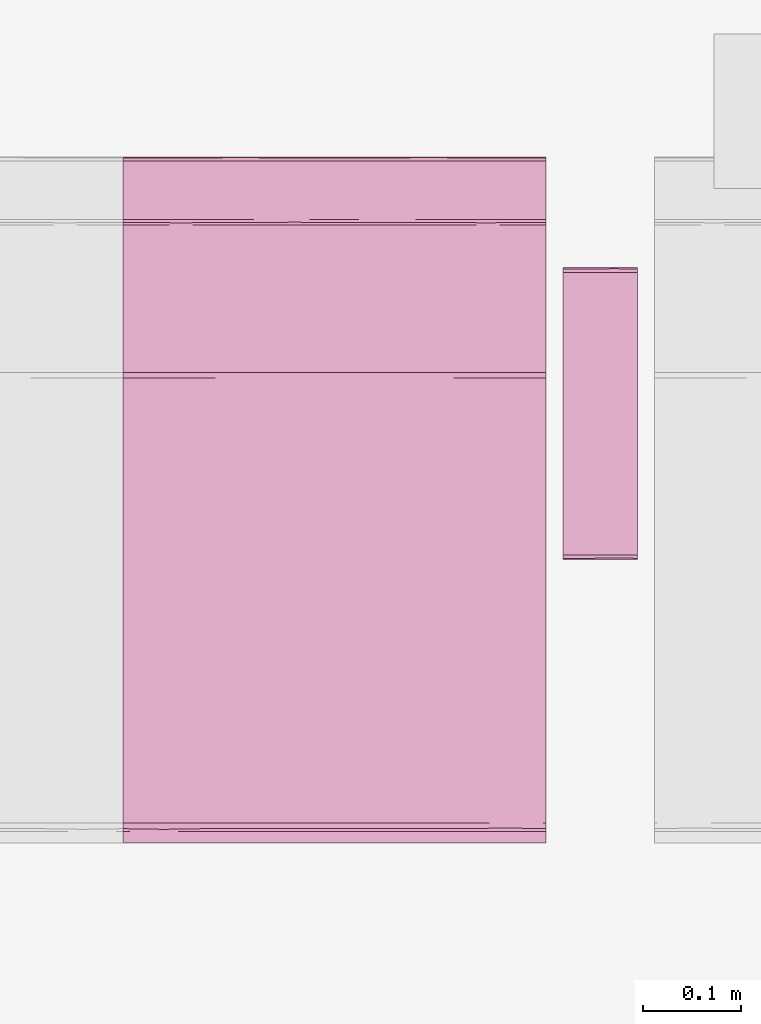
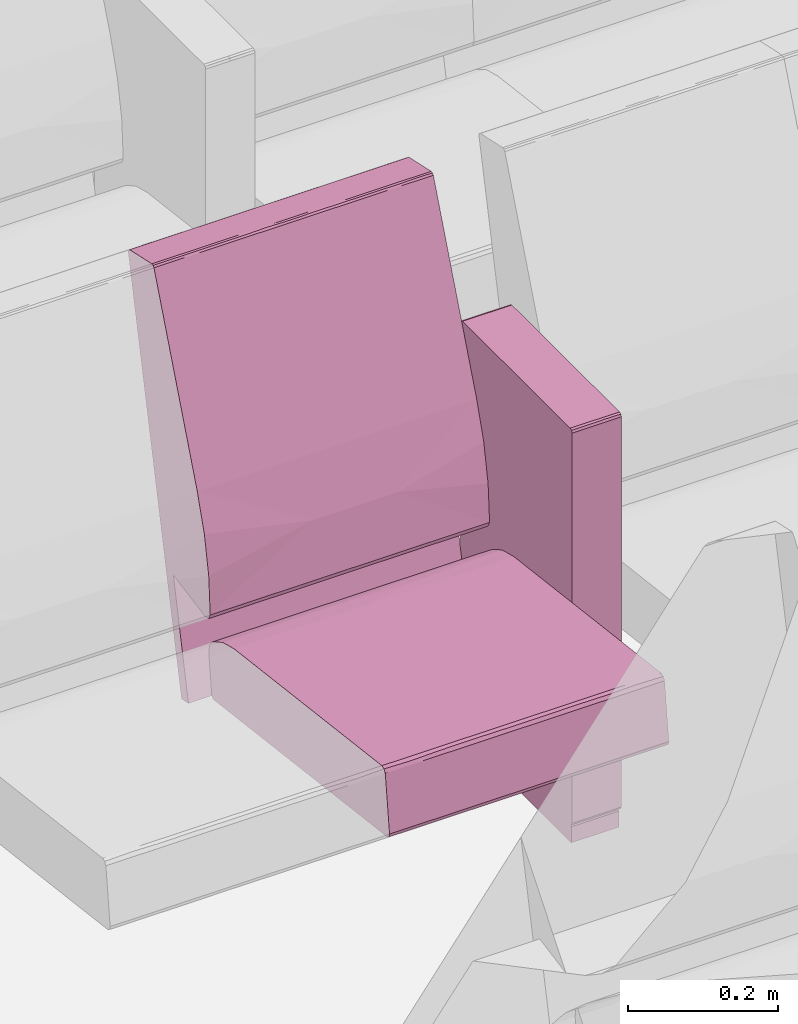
# One storey, part 116 of 155: 1 furnishing.
"""IFC2X3 building model written with IfcOpenShell, lengths in metres."""

from ifc_helpers import new_model, entity, si_unit, converted_unit, derived_unit, direction, frame, origin, place, context, subcontext, project, spatial, faceted_brep, source, transform, mapped, material, material_list, type_object, type_shapes, element, save


model = new_model("IFC2X3")

# Units and contexts
model_context = context("Model", 3, precision=1e-05, world=origin(), true_north=direction((6.12303176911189e-17, 1.0)))
body_context = subcontext(model_context, "Body", "Model", "MODEL_VIEW")
ifc_project = project(units=[si_unit("LENGTHUNIT", "METRE"), si_unit("AREAUNIT", "SQUARE_METRE"), si_unit("VOLUMEUNIT", "CUBIC_METRE"), converted_unit("PLANEANGLEUNIT", "DEGREE", entity("IfcRatioMeasure", 0.0174532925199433), si_unit("PLANEANGLEUNIT", "RADIAN"), dimensions=[0, 0, 0, 0, 0, 0, 0]), si_unit("MASSUNIT", "GRAM", prefix="KILO"), derived_unit("MASSDENSITYUNIT", [(si_unit("MASSUNIT", "GRAM", prefix="KILO"), 1), (si_unit("LENGTHUNIT", "METRE"), -3)]), si_unit("TIMEUNIT", "SECOND"), si_unit("FREQUENCYUNIT", "HERTZ"), si_unit("THERMODYNAMICTEMPERATUREUNIT", "DEGREE_CELSIUS"), derived_unit("THERMALTRANSMITTANCEUNIT", [(si_unit("MASSUNIT", "GRAM", prefix="KILO"), 1), (si_unit("THERMODYNAMICTEMPERATUREUNIT", "KELVIN"), -1), (si_unit("TIMEUNIT", "SECOND"), -3)]), derived_unit("VOLUMETRICFLOWRATEUNIT", [(si_unit("LENGTHUNIT", "METRE"), 3), (si_unit("TIMEUNIT", "SECOND"), -1)]), si_unit("ELECTRICCURRENTUNIT", "AMPERE"), si_unit("ELECTRICVOLTAGEUNIT", "VOLT"), si_unit("POWERUNIT", "WATT"), si_unit("FORCEUNIT", "NEWTON", prefix="KILO"), si_unit("ILLUMINANCEUNIT", "LUX"), si_unit("LUMINOUSFLUXUNIT", "LUMEN"), si_unit("LUMINOUSINTENSITYUNIT", "CANDELA"), derived_unit("USERDEFINED", [(si_unit("MASSUNIT", "GRAM", prefix="KILO"), -1), (si_unit("LENGTHUNIT", "METRE"), -2), (si_unit("TIMEUNIT", "SECOND"), 3), (si_unit("LUMINOUSFLUXUNIT", "LUMEN"), 1)]), derived_unit("LINEARVELOCITYUNIT", [(si_unit("LENGTHUNIT", "METRE"), 1), (si_unit("TIMEUNIT", "SECOND"), -1)]), si_unit("PRESSUREUNIT", "PASCAL"), derived_unit("USERDEFINED", [(si_unit("LENGTHUNIT", "METRE"), -2), (si_unit("MASSUNIT", "GRAM", prefix="KILO"), 1), (si_unit("TIMEUNIT", "SECOND"), -2)])], contexts=[model_context])

# Site, building, storey, space
site_placement = place(None, frame((26.9889013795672, -17.5624287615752, 0.0)))
site = spatial("IfcSite", under=ifc_project, at=site_placement, Name="Default", CompositionType="ELEMENT")
building_placement = place(site_placement, origin())
building = spatial("IfcBuilding", under=site, at=building_placement, Name="C. C. L. Monsenhor Antônio Sampaio", CompositionType="ELEMENT")
storey_placement = place(building_placement, frame((0.0, 0.0, 1.19999999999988)))
storey = spatial("IfcBuildingStorey", under=building, at=storey_placement, Name="Nível 1.2", CompositionType="ELEMENT", Elevation=1.19999999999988)
space_placement = place(storey_placement, origin())
space = spatial("IfcSpace", under=storey, at=space_placement, Name="94", CompositionType="ELEMENT", InteriorOrExteriorSpace="INTERNAL")

# Furnishing
ifc_material_1 = material(Name="V9 - V9 - Ecopelle_672_658")
ifc_material_2 = material(Name="V9 - V9 - RAL_9006_Grigio")
ifc_material_list_1 = material_list([ifc_material_1, ifc_material_2])
ifc_material_list_2 = material_list([ifc_material_1, ifc_material_2])
furniture_type = type_object("IfcFurnitureType", Name="Cadeira auditório", material=ifc_material_list_2)
shared_shape = source(origin(), body_context, "Body", "Brep", [
    faceted_brep([(0.405536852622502, -0.1075, 0.339809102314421), (0.410560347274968, -0.131924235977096, 0.34246450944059), (0.405536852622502, -0.156348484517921, 0.339809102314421), (0.41079981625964, -0.0179166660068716, 0.342749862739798), (0.410597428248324, -0.084060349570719, 0.342506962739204), (0.405536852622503, -0.0537499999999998, 0.339809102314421), (0.410248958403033, -0.173608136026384, 0.342130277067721), (0.405536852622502, -0.215, 0.339809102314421), (0.412515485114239, -0.143333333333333, 0.348529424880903), (0.412515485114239, -0.185674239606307, 0.348529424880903), (0.405536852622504, 0.1075, 0.33980910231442), (0.405536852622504, 0.156348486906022, 0.33980910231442), (0.410560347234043, 0.131924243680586, 0.342464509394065), (0.405536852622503, 0.0, 0.33980910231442), (0.411170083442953, 0.0341365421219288, 0.343251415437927), (0.41251548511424, 0.0, 0.348529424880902), (0.412515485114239, -0.0358333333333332, 0.348529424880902), (0.412515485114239, -0.0716666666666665, 0.348529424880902), (0.41251548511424, 0.143333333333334, 0.348529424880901), (0.41059742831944, 0.0840603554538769, 0.342506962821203), (0.405536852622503, 0.0537500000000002, 0.33980910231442), (0.410248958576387, 0.173608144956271, 0.342130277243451), (0.410799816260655, 0.215, 0.342749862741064), (0.412515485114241, 0.185674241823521, 0.348529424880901), (0.412515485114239, -0.215, 0.348529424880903), (0.410799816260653, -0.215, 0.342749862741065), (0.412515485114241, 0.215, 0.348529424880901), (0.41251548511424, 0.0716666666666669, 0.348529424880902), (0.405536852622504, 0.215, 0.33980910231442), (-0.0557900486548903, -0.215, 0.28268145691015), (-0.0557900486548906, -0.1881249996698, 0.282681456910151), (-0.0557900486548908, -0.161250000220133, 0.282681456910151), (-0.055790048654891, -0.134374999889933, 0.282681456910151), (-0.0557900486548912, -0.107499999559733, 0.282681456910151), (-0.0557900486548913, -0.0806250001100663, 0.282681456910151), (-0.0557900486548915, -0.0537499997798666, 0.282681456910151), (-0.0557900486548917, -0.0268749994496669, 0.282681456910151), (-0.0557900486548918, 0.0, 0.28268145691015), (-0.0557900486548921, 0.0268750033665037, 0.282681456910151), (-0.0557900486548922, 0.0537499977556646, 0.282681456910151), (-0.0557900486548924, 0.0806249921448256, 0.282681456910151), (-0.0557900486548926, 0.107499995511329, 0.282681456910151), (-0.0557900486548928, 0.138065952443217, 0.282681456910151), (-0.055790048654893, 0.168631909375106, 0.282681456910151), (-0.0557900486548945, 0.215, 0.28268145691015), (-0.0594787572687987, -0.0179017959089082, 0.283700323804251), (-0.0613666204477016, 0.0, 0.287029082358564), (-0.0594787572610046, 0.0152829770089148, 0.283700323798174), (-0.0594787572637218, -0.215, 0.283700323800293), (-0.0613666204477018, -0.215, 0.287029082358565), (-0.0613666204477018, -0.191815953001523, 0.287029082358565), (-0.0613666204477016, -0.030565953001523, 0.287029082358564), (-0.0593340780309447, -0.0671874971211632, 0.283591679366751), (-0.0593337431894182, 0.184174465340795, 0.283591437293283), (-0.0594787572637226, 0.215, 0.283700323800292), (-0.0593023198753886, 0.0940625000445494, 0.283568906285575), (-0.0613666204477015, 0.0611319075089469, 0.287029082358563), (-0.0613666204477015, 0.0916978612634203, 0.287029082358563), (-0.0613666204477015, 0.122263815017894, 0.287029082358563), (-0.0597338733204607, -0.147039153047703, 0.283913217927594), (-0.0613666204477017, -0.122263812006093, 0.287029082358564), (-0.059382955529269, -0.118123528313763, 0.28362747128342), (-0.0592501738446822, -0.180223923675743, 0.283532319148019), (-0.0613666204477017, -0.168631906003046, 0.287029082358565), (-0.0588783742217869, -0.0926899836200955, 0.283298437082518), (-0.0613666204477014, 0.168631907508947, 0.287029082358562), (-0.0613666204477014, 0.215, 0.287029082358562), (-0.0592576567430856, 0.123736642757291, 0.283537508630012), (-0.0594787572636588, 0.153348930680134, 0.283700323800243), (-0.0613666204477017, -0.0916978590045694, 0.287029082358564), (-0.0613666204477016, 0.0305659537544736, 0.287029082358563), (-0.059645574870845, 0.045848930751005, 0.283836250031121), (-0.0613666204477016, -0.0611319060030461, 0.287029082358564), (-0.0693403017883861, 0.143333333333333, 0.351419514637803), (-0.069340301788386, 0.215, 0.351419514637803), (-0.0693403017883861, -0.215, 0.351419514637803), (-0.0693403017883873, -0.143333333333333, 0.351419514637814), (-0.069340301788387, -0.0716666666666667, 0.351419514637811), (-0.0693403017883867, 0.0, 0.351419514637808), (-0.0693403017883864, 0.0716666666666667, 0.351419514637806), (-0.0653387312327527, -0.0126787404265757, 0.368680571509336), (-0.0645543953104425, -0.112272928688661, 0.369803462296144), (-0.0597085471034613, 0.0, 0.37476954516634), (-0.0655136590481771, 0.104400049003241, 0.368411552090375), (-0.0681665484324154, 0.0888707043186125, 0.36292533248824), (-0.0694879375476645, -0.0590582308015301, 0.356377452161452), (-0.0695056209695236, 0.125492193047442, 0.356093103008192), (-0.0597085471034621, 0.110316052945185, 0.374769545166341), (-0.0676206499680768, -0.215, 0.364371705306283), (-0.0672851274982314, -0.108066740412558, 0.365148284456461), (-0.0690003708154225, -0.132942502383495, 0.359900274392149), (-0.068624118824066, -0.215, 0.356813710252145), (-0.0686241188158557, 0.214999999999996, 0.356813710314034), (-0.0694502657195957, 0.0358333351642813, 0.356863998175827), (-0.0686999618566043, -0.035833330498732, 0.36116674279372), (-0.067620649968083, 0.214999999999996, 0.364371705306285), (-0.063664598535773, 0.214999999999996, 0.369570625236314), (-0.0597085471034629, 0.214999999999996, 0.374769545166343), (-0.0597085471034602, -0.110316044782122, 0.374769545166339), (-0.0636645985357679, -0.215, 0.36957062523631), (-0.0597085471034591, -0.215, 0.374769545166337), (-0.0018793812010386, -0.215, 0.398686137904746), (-0.0324117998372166, -0.0436847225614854, 0.39063968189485), (-0.0324117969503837, -0.215, 0.390639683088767), (-0.041847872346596, 0.0856576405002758, 0.386239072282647), (-0.00187938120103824, 0.102488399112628, 0.398686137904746), (-0.00187938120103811, 0.215, 0.398686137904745), (-0.0324117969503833, 0.215, 0.390639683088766), (-0.0219042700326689, 0.0570631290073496, 0.394412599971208), (-0.00187938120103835, 0.0, 0.398686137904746), (0.392202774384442, -0.215, 0.447486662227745), (0.392202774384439, -0.156349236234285, 0.447486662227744), (0.392202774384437, -0.107499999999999, 0.447486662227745), (0.392202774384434, -0.0537499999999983, 0.447486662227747), (0.392202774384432, 0.0, 0.447486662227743), (0.392202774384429, 0.0537500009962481, 0.44748666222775), (0.392202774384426, 0.107500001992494, 0.447486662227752), (0.392202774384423, 0.156349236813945, 0.447486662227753), (0.392202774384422, 0.215, 0.447486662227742), (0.397860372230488, 0.0827732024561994, 0.446039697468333), (0.401125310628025, 0.0976984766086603, 0.440530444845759), (0.398104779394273, 0.131924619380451, 0.445856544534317), (0.397373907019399, 0.173462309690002, 0.446363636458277), (0.401125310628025, 0.156349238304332, 0.440530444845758), (0.401125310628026, 0.215000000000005, 0.440530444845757), (0.398104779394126, 0.215000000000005, 0.445856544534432), (0.397860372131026, -0.0827731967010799, 0.446039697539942), (0.398104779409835, -0.131924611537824, 0.445856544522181), (0.398104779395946, -0.0268749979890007, 0.445856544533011), (0.398104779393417, 0.0237489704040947, 0.445856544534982), (0.401125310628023, -0.0488492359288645, 0.440530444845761), (0.401125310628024, 0.0488492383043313, 0.44053044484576), (0.398774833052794, -0.173462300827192, 0.445271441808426), (0.401125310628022, -0.0976984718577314, 0.440530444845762), (0.39810477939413, -0.215, 0.445856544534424), (0.401125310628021, -0.215, 0.440530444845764), (0.401125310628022, -0.156349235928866, 0.440530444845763), (0.401125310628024, 0.0, 0.44053044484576)], [[[0, 1, 2]], [[3, 4, 5]], [[2, 6, 7]], [[8, 9, 6]], [[10, 11, 12]], [[13, 3, 5]], [[3, 14, 15]], [[1, 4, 8]], [[6, 1, 8]], [[4, 3, 16]], [[16, 17, 8, 4]], [[12, 18, 19]], [[4, 1, 0]], [[20, 14, 13]], [[21, 22, 23]], [[15, 16, 3]], [[9, 24, 25]], [[26, 23, 22]], [[7, 6, 25]], [[12, 11, 21]], [[19, 14, 20]], [[4, 0, 5]], [[14, 27, 15]], [[13, 14, 3]], [[19, 18, 27]], [[19, 10, 12]], [[18, 21, 23]], [[10, 19, 20]], [[19, 27, 14]], [[2, 1, 6]], [[21, 11, 28]], [[25, 6, 9]], [[18, 12, 21]], [[22, 21, 28]], [[28, 11, 10, 20, 13, 5, 0, 2, 7, 29, 30, 31, 32, 33, 34, 35, 36, 37, 38, 39, 40, 41, 42, 43, 44]], [[45, 46, 47]], [[48, 49, 50]], [[51, 45, 52]], [[53, 54, 44]], [[55, 56, 57, 58]], [[59, 60, 61]], [[62, 63, 59]], [[34, 64, 52]], [[53, 65, 66]], [[41, 67, 42]], [[37, 36, 35, 45, 47, 38]], [[43, 42, 68]], [[29, 48, 30]], [[59, 31, 62]], [[62, 48, 50]], [[61, 69, 64]], [[65, 53, 68]], [[50, 63, 62]], [[62, 30, 48]], [[55, 58, 67]], [[32, 31, 59]], [[46, 70, 47]], [[65, 68, 58]], [[55, 40, 71]], [[70, 56, 71]], [[61, 33, 32]], [[59, 63, 60]], [[39, 38, 71, 40]], [[47, 71, 38]], [[51, 46, 45]], [[70, 71, 47]], [[71, 56, 55]], [[40, 55, 41]], [[67, 68, 42]], [[43, 68, 53]], [[43, 53, 44]], [[66, 54, 53]], [[68, 67, 58]], [[55, 67, 41]], [[72, 51, 52, 69]], [[62, 31, 30]], [[59, 61, 32]], [[35, 52, 45]], [[64, 34, 33]], [[34, 52, 35]], [[61, 60, 69]], [[52, 64, 69]], [[61, 64, 33]], [[73, 74, 66, 65, 58, 57, 56, 70, 46, 51, 72, 69, 60, 63, 50, 49, 75, 76, 77, 78, 79]], [[80, 81, 82]], [[83, 84, 80]], [[85, 78, 77, 76]], [[73, 79, 86]], [[80, 82, 83]], [[87, 83, 82]], [[88, 89, 90]], [[76, 75, 91]], [[92, 74, 73]], [[91, 90, 85]], [[80, 89, 81]], [[84, 93, 94]], [[84, 86, 93]], [[93, 78, 85]], [[73, 86, 92]], [[94, 93, 85]], [[95, 92, 84]], [[78, 93, 79]], [[80, 84, 94]], [[83, 96, 95]], [[94, 85, 90]], [[87, 97, 96]], [[98, 99, 100]], [[91, 85, 76]], [[94, 90, 89]], [[90, 91, 88]], [[89, 80, 94]], [[89, 99, 81]], [[89, 88, 99]], [[82, 81, 98]], [[81, 99, 98]], [[92, 86, 84]], [[93, 86, 79]], [[84, 83, 95]], [[96, 83, 87]], [[101, 102, 103]], [[104, 97, 87, 82]], [[105, 106, 107]], [[107, 108, 105]], [[109, 102, 101]], [[82, 102, 104]], [[102, 108, 104]], [[103, 102, 100]], [[97, 104, 107]], [[104, 108, 107]], [[102, 82, 98, 100]], [[105, 108, 109]], [[108, 102, 109]], [[109, 101, 110, 111, 112, 113, 114, 115, 116, 117, 118, 106, 105]], [[119, 120, 121]], [[122, 123, 124]], [[122, 125, 118]], [[126, 113, 112]], [[117, 121, 122]], [[121, 117, 116]], [[112, 111, 127]], [[113, 128, 129, 115, 114]], [[126, 130, 128]], [[129, 131, 119]], [[111, 132, 127]], [[132, 111, 110]], [[133, 126, 127]], [[123, 122, 121]], [[132, 134, 135]], [[127, 132, 136]], [[123, 121, 120]], [[127, 136, 133]], [[129, 128, 130, 137, 131]], [[112, 127, 126]], [[126, 133, 130]], [[119, 121, 116]], [[113, 126, 128]], [[119, 115, 129]], [[119, 116, 115]], [[120, 119, 131]], [[117, 122, 118]], [[124, 125, 122]], [[136, 132, 135]], [[110, 134, 132]], [[137, 130, 133, 136, 135, 24, 9, 8, 17, 16, 15, 27, 18, 23, 26, 124, 123, 120, 131]], [[44, 54, 66, 74, 92, 95, 96, 97, 107, 106, 118, 125, 124, 26, 22, 28]], [[75, 49, 48, 29, 7, 25, 24, 135, 134, 110, 101, 103, 100, 99, 88, 91]]]),
    faceted_brep([(0.119812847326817, 0.27, 0.674900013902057), (0.12334838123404, 0.259944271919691, 0.6734355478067), (0.123144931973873, 0.283972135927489, 0.673627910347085), (0.124812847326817, 0.27, 0.669900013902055), (0.119812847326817, 0.232, 0.674900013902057), (0.12334838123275, 0.232, 0.673435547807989), (0.124812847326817, 0.308, 0.669900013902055), (0.119812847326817, 0.308, 0.674900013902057), (0.124812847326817, 0.249888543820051, 0.669900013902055), (0.124812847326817, 0.232, 0.669900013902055), (0.12334838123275, 0.308, 0.673435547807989), (0.124812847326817, 0.232, 0.0349999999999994), (0.124812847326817, 0.27, 0.035), (0.124812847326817, 0.308, 0.035), (0.12334838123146, 0.25994427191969, 0.0314644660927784), (0.123540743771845, 0.283972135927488, 0.0316679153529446), (0.119812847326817, 0.27, 0.0300000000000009), (0.12334838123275, 0.232, 0.0314644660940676), (0.119812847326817, 0.308, 0.0300000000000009), (0.119812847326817, 0.249888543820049, 0.030000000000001), (0.119812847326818, 0.232, 0.030000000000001), (0.123348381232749, 0.308, 0.0314644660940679), (-0.167179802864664, 0.27, 0.0300000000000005), (-0.167179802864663, 0.308, 0.0300000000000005), (-0.167179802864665, 0.232, 0.0300000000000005), (-0.170715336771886, 0.25994427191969, 0.0314644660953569), (-0.17051188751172, 0.283972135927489, 0.0312721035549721), (-0.172179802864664, 0.27, 0.0350000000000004), (-0.170715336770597, 0.232, 0.0314644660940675), (-0.172179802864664, 0.308, 0.0350000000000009), (-0.172179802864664, 0.24988854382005, 0.0350000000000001), (-0.172179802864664, 0.232, 0.0349999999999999), (-0.170715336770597, 0.308, 0.0314644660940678), (-0.172179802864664, 0.308, 0.669900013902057), (-0.172179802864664, 0.232, 0.669900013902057), (-0.172179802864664, 0.27, 0.669900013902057), (-0.170715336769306, 0.259944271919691, 0.673435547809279), (-0.170907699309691, 0.283972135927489, 0.673232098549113), (-0.167179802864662, 0.27, 0.674900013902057), (-0.170715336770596, 0.232, 0.67343554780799), (-0.167179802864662, 0.308, 0.674900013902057), (-0.167179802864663, 0.249888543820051, 0.674900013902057), (-0.167179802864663, 0.232, 0.674900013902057), (-0.170715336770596, 0.308, 0.67343554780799)], [[[0, 1, 2]], [[3, 2, 1]], [[0, 4, 5, 1]], [[2, 3, 6]], [[0, 2, 7]], [[8, 3, 1, 5, 9]], [[7, 2, 10]], [[6, 10, 2]], [[9, 11, 12, 13, 6, 3, 8]], [[12, 14, 15]], [[16, 15, 14]], [[12, 11, 17, 14]], [[15, 16, 18]], [[12, 15, 13]], [[19, 16, 14, 17, 20]], [[13, 15, 21]], [[18, 21, 15]], [[22, 23, 18, 16, 19, 20, 24]], [[22, 25, 26]], [[27, 26, 25]], [[22, 24, 28, 25]], [[26, 27, 29]], [[22, 26, 23]], [[30, 27, 25, 28, 31]], [[23, 26, 32]], [[29, 32, 26]], [[33, 29, 27, 30, 31, 34, 35]], [[35, 36, 37]], [[38, 37, 36]], [[35, 34, 39, 36]], [[37, 38, 40]], [[35, 37, 33]], [[41, 38, 36, 39, 42]], [[33, 37, 43]], [[40, 43, 37]], [[0, 7, 40, 38, 41, 42, 4]], [[42, 39, 34, 31, 28, 24, 20, 17, 11, 9, 5, 4]], [[23, 32, 29, 33, 43, 40, 7, 10, 6, 13, 21, 18]]]),
    faceted_brep([(-0.0655618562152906, -0.215, 0.415143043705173), (-0.0744051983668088, -0.0524423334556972, 0.506888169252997), (-0.0695672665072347, -0.215, 0.476508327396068), (-0.0655618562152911, 0.0, 0.415143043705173), (-0.0744051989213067, 0.0780075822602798, 0.506888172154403), (-0.0655618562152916, 0.1075, 0.415143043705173), (-0.0655618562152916, 0.215, 0.415143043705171), (-0.0655618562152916, -0.1075, 0.415143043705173), (-0.0695672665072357, 0.215, 0.476508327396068), (-0.0811110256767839, 0.215, 0.536911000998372), (-0.0811110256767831, -0.215, 0.536911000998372), (-0.100016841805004, 0.0, 0.595428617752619), (-0.100016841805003, -0.215, 0.595428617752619), (-0.100016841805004, 0.215, 0.595428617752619), (-0.0792851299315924, -0.0716666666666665, 0.404772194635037), (-0.0792851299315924, 0.0, 0.404772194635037), (-0.0698317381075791, -0.0358333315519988, 0.406528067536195), (-0.0698317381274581, 0.215, 0.406528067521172), (-0.0792851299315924, 0.143333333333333, 0.404772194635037), (-0.0792851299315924, 0.215, 0.404772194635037), (-0.0698317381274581, -0.215, 0.406528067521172), (-0.0792851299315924, -0.215, 0.404772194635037), (-0.0792851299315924, -0.143333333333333, 0.404772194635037), (-0.0694171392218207, -0.140338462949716, 0.406857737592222), (-0.0708115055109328, 0.0356393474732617, 0.405868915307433), (-0.0703502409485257, 0.107500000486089, 0.406159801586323), (-0.0792851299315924, 0.0716666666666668, 0.404772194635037), (-0.163837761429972, 0.215, 0.420611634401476), (-0.163837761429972, -0.215, 0.420611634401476), (-0.123612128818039, -0.215, 0.235917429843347), (-0.123612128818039, 0.215, 0.235917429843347), (-0.142059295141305, -0.215, 0.231899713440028), (-0.142059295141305, 0.215, 0.231899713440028), (-0.235388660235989, -0.215, 0.652619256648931), (-0.235388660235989, 0.215, 0.652619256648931), (-0.28428001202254, 0.0, 0.873004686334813), (-0.284280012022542, 0.0268749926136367, 0.873004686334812), (-0.284280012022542, 0.0537499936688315, 0.873004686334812), (-0.284280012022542, 0.0806249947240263, 0.873004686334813), (-0.284280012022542, 0.107499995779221, 0.873004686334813), (-0.284280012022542, 0.134374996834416, 0.873004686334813), (-0.284280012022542, 0.161249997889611, 0.873004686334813), (-0.284280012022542, 0.191295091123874, 0.873004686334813), (-0.28428001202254, 0.215, 0.873004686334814), (-0.284280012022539, -0.215, 0.873004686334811), (-0.28428001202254, -0.191295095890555, 0.873004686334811), (-0.284280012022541, -0.161249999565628, 0.873004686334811), (-0.284280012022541, -0.134374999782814, 0.873004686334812), (-0.284280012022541, -0.1075, 0.873004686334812), (-0.284280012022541, -0.0806250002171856, 0.873004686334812), (-0.284280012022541, -0.0537500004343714, 0.873004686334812), (-0.284280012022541, -0.0268749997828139, 0.873004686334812), (-0.283504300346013, -0.0569644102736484, 0.877068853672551), (-0.283746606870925, -0.0872244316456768, 0.876674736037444), (-0.283641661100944, 0.12093750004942, 0.876855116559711), (-0.283567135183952, 0.15546176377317, 0.876973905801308), (-0.28330409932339, -0.185293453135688, 0.877344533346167), (-0.283567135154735, -0.155461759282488, 0.876973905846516), (-0.280514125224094, 0.0, 0.879190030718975), (-0.280514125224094, 0.0358333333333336, 0.879190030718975), (-0.283641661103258, 0.0136463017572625, 0.876855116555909), (-0.283641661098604, -0.0179166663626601, 0.876855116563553), (-0.280514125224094, -0.0358333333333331, 0.879190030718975), (-0.280514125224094, 0.1075, 0.879190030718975), (-0.280514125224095, 0.143333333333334, 0.879190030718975), (-0.283746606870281, 0.0872244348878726, 0.876674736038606), (-0.280514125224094, 0.071666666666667, 0.879190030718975), (-0.280514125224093, -0.1075, 0.879190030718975), (-0.280514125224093, -0.0716666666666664, 0.879190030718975), (-0.280514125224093, -0.143333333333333, 0.879190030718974), (-0.283641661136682, -0.120937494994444, 0.876855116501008), (-0.283641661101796, -0.215, 0.876855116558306), (-0.283641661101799, 0.215, 0.876855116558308), (-0.280514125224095, 0.167590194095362, 0.879190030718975), (-0.283304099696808, 0.18529345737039, 0.877344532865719), (-0.280514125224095, 0.215, 0.879190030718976), (-0.280514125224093, -0.167590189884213, 0.879190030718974), (-0.280514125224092, -0.215, 0.879190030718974), (-0.283504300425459, 0.0569644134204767, 0.8770688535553), (-0.221112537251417, -0.215, 0.892176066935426), (-0.221112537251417, -0.19181594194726, 0.892176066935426), (-0.221112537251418, -0.16124999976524, 0.892176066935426), (-0.221112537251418, -0.13437499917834, 0.892176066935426), (-0.221112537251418, -0.10749999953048, 0.892176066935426), (-0.221112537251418, -0.08062499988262, 0.892176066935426), (-0.221112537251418, -0.0537500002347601, 0.892176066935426), (-0.221112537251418, -0.0268750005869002, 0.892176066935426), (-0.221112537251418, 0.0, 0.892176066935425), (-0.221112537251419, 0.0268750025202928, 0.892176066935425), (-0.221112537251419, 0.053749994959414, 0.892176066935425), (-0.221112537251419, 0.0806249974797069, 0.892176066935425), (-0.221112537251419, 0.1075, 0.892176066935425), (-0.221112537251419, 0.134375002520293, 0.892176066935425), (-0.221112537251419, 0.161250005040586, 0.892176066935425), (-0.221112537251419, 0.191815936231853, 0.892176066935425), (-0.221112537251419, 0.215, 0.892176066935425), (-0.217722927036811, -0.0162353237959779, 0.891719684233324), (-0.215419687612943, -0.0358333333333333, 0.889191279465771), (-0.215419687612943, 0.0, 0.889191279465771), (-0.217722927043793, 0.0134375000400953, 0.891719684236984), (-0.217722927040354, 0.120937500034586, 0.89171968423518), (-0.217722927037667, 0.0912646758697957, 0.891719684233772), (-0.215419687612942, 0.0716666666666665, 0.88919127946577), (-0.215419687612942, 0.1075, 0.88919127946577), (-0.215419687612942, 0.143333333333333, 0.88919127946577), (-0.217722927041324, 0.215, 0.891719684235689), (-0.217722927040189, 0.182482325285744, 0.891719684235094), (-0.215419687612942, 0.168631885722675, 0.889191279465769), (-0.215419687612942, 0.191815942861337, 0.889191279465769), (-0.215419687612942, 0.215, 0.889191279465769), (-0.217722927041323, -0.215, 0.89171968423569), (-0.215419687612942, -0.215, 0.889191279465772), (-0.215419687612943, -0.191815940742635, 0.889191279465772), (-0.217722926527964, -0.190103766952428, 0.891719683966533), (-0.2179983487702, 0.039082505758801, 0.891853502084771), (-0.217816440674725, 0.0647800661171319, 0.891767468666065), (-0.217558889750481, 0.155982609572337, 0.891629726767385), (-0.217722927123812, -0.120937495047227, 0.891719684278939), (-0.217558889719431, -0.15598260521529, 0.891629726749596), (-0.215419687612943, -0.143333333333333, 0.889191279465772), (-0.215419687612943, -0.16863188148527, 0.889191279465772), (-0.215419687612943, -0.0716666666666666, 0.889191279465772), (-0.217816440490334, -0.0647800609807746, 0.891767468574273), (-0.217722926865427, -0.0912646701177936, 0.891719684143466), (-0.215419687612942, 0.0358333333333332, 0.889191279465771), (-0.215419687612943, -0.1075, 0.889191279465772), (-0.218257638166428, -0.0404491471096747, 0.891961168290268)], [[[0, 1, 2]], [[3, 4, 1]], [[4, 3, 5, 6]], [[1, 0, 7, 3]], [[8, 4, 6]], [[9, 4, 8]], [[1, 10, 2]], [[1, 11, 12]], [[9, 13, 4]], [[13, 11, 4]], [[10, 1, 12]], [[11, 1, 4]], [[14, 15, 16]], [[17, 18, 19]], [[20, 21, 22]], [[20, 23, 0]], [[3, 7, 16]], [[15, 24, 16]], [[24, 25, 5]], [[22, 23, 20]], [[7, 23, 16]], [[6, 5, 17]], [[16, 24, 3]], [[16, 23, 14]], [[23, 22, 14]], [[18, 25, 26]], [[18, 17, 25]], [[26, 24, 15]], [[7, 0, 23]], [[5, 25, 17]], [[25, 24, 26]], [[3, 24, 5]], [[27, 19, 18, 26, 15, 14, 22, 21, 28]], [[27, 28, 29, 30]], [[31, 32, 30, 29]], [[33, 34, 32, 31]], [[35, 36, 37, 38, 39, 40, 41, 42, 43, 34, 33, 44, 45, 46, 47, 48, 49, 50, 51]], [[52, 49, 53]], [[54, 55, 40]], [[46, 56, 57]], [[58, 59, 60, 61, 62]], [[54, 63, 64]], [[65, 66, 63]], [[67, 68, 53]], [[57, 69, 70]], [[45, 56, 46]], [[39, 54, 40]], [[45, 44, 71]], [[72, 43, 42]], [[35, 51, 61, 60, 36]], [[55, 73, 74]], [[39, 65, 54]], [[74, 73, 75]], [[67, 53, 70]], [[74, 42, 41]], [[64, 73, 55]], [[56, 76, 57]], [[74, 72, 42]], [[76, 56, 77]], [[56, 71, 77]], [[57, 76, 69]], [[48, 70, 53]], [[70, 48, 47]], [[60, 78, 36]], [[63, 54, 65]], [[71, 56, 45]], [[41, 55, 74]], [[72, 74, 75]], [[57, 70, 47]], [[47, 46, 57]], [[69, 67, 70]], [[50, 49, 52, 51]], [[52, 62, 61]], [[61, 51, 52]], [[55, 41, 40]], [[55, 54, 64]], [[66, 65, 78]], [[65, 38, 78]], [[52, 53, 68]], [[37, 36, 78, 38]], [[78, 59, 66]], [[59, 78, 60]], [[49, 48, 53]], [[65, 39, 38]], [[52, 68, 62]], [[79, 80, 81, 82, 83, 84, 85, 86, 87, 88, 89, 90, 91, 92, 93, 94, 95, 75, 73, 64, 63, 66, 59, 58, 62, 68, 67, 69, 76, 77]], [[96, 97, 98, 99]], [[100, 101, 102, 103, 104]], [[105, 106, 107, 108, 109]], [[110, 111, 112]], [[80, 110, 113]], [[89, 114, 115]], [[92, 116, 93]], [[94, 93, 106, 105, 95]], [[80, 79, 110]], [[92, 91, 90, 101, 100]], [[99, 88, 87, 86, 96]], [[104, 107, 116]], [[117, 83, 82]], [[117, 118, 119]], [[112, 120, 113]], [[118, 120, 119]], [[118, 81, 113]], [[116, 107, 106]], [[101, 90, 115]], [[121, 122, 123]], [[104, 116, 100]], [[110, 112, 113]], [[114, 99, 124]], [[92, 100, 116]], [[117, 125, 123]], [[82, 81, 118]], [[118, 117, 82]], [[83, 117, 123]], [[125, 117, 119]], [[102, 101, 115]], [[84, 83, 123]], [[123, 125, 121]], [[85, 84, 122]], [[89, 115, 90]], [[96, 86, 126]], [[124, 102, 115]], [[88, 99, 114]], [[99, 98, 124]], [[122, 121, 97]], [[126, 122, 97]], [[88, 114, 89]], [[115, 114, 124]], [[123, 122, 84]], [[126, 85, 122]], [[85, 126, 86]], [[96, 126, 97]], [[116, 106, 93]], [[80, 113, 81]], [[118, 113, 120]], [[12, 11, 13, 109, 108, 107, 104, 103, 102, 124, 98, 97, 121, 125, 119, 120, 112, 111]], [[30, 32, 34, 43, 72, 75, 95, 105, 109, 13, 9, 8, 6, 17, 19, 27]], [[77, 71, 44, 33, 31, 29, 28, 21, 20, 0, 2, 10, 12, 111, 110, 79]]]),
    faceted_brep([(0.120312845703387, 0.2335, 0.0), (0.120312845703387, 0.3065, 0.0), (0.120312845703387, 0.3065, 0.0260000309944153), (0.120312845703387, 0.27, 0.0260000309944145), (0.120312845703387, 0.249500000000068, 0.0260000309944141), (0.120312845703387, 0.2335, 0.0260000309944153), (-0.167687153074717, 0.2335, 0.0), (-0.167687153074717, 0.3065, 0.0), (-0.167687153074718, 0.3065, 0.0260000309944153), (-0.167687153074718, 0.2335, 0.0260000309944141), (-0.167687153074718, 0.27, 0.0260000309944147), (-0.163702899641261, 0.233500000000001, 0.0300000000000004), (-0.166521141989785, 0.257382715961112, 0.0288228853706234), (-0.166521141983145, 0.233500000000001, 0.0288228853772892), (-0.166521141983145, 0.3065, 0.0288228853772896), (-0.16652114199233, 0.279986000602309, 0.0288228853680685), (-0.163702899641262, 0.3065, 0.0300000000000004), (-0.163702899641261, 0.27, 0.0300000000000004), (0.116297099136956, 0.2335, 0.0300000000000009), (0.116297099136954, 0.270000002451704, 0.0300000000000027), (0.116297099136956, 0.3065, 0.0300000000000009), (0.119033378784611, 0.283124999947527, 0.0289323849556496), (0.119135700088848, 0.259750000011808, 0.0288340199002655), (0.1191357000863, 0.2335, 0.0288340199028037), (0.119135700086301, 0.3065, 0.0288340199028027)], [[[0, 1, 2, 3, 4, 5]], [[6, 7, 1, 0]], [[8, 7, 6, 9, 10]], [[11, 12, 13]], [[14, 15, 16]], [[17, 16, 15, 12, 11]], [[13, 12, 10, 9]], [[8, 15, 14]], [[12, 15, 8, 10]], [[16, 17, 11, 18, 19, 20]], [[3, 2, 21]], [[22, 19, 18, 23]], [[22, 23, 5, 4, 3]], [[20, 21, 24]], [[22, 3, 21]], [[19, 21, 20]], [[2, 24, 21]], [[19, 22, 21]], [[20, 24, 2, 1, 7, 8, 14, 16]], [[18, 11, 13, 9, 6, 0, 5, 23]]]),
])
type_shapes(furniture_type, [shared_shape])
furnishing_placement = place(space_placement, frame((-12.9959492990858, -11.4021989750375, 0.0), z_axis=(0.0, 0.0, 1.0), x_axis=(0.0, -1.0, 0.0)))
element("IfcFurnishingElement", 1, at=furnishing_placement, inside=space, type_object=furniture_type, material=ifc_material_list_1, Name="cadeira auditório pcd:Cadeira auditório", ObjectType="Cadeira auditório", context=body_context, shape_type="MappedRepresentation", body=[
    mapped(shared_shape, transform((0.0, 0.0, 0.0), scale=1.0)),
])

save(model, "model.ifc")
